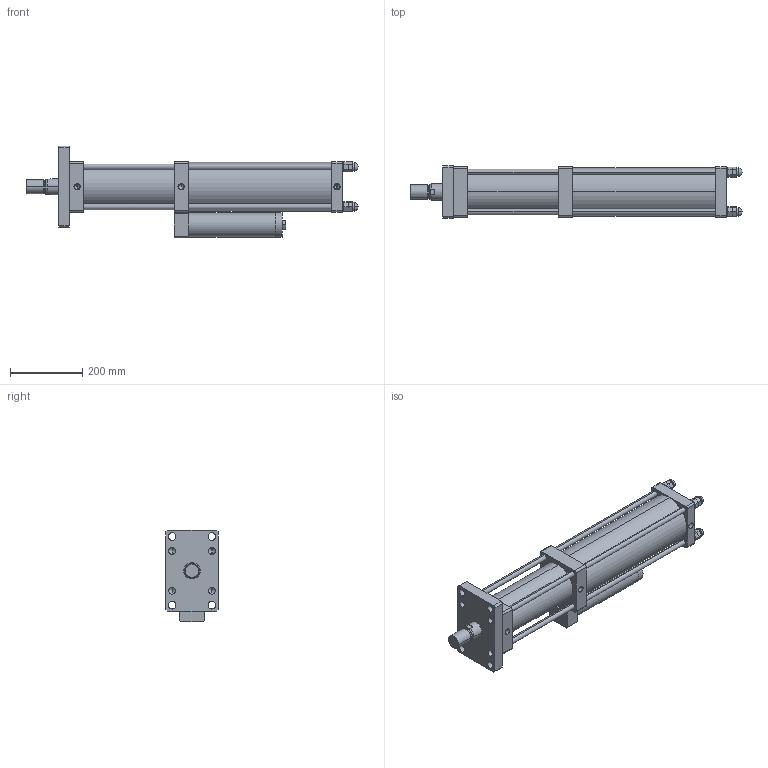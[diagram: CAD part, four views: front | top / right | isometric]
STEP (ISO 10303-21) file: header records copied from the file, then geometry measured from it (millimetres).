
FILE_DESCRIPTION (( 'STEP AP203' ), '1' );
FILE_NAME ('MPTC-100-20-13T.STEP', '2016-03-29T06:57:37', ( 'WIN' ), ( '' ), 'SwSTEP 2.0', 'SolidWorks 2014', '' );
FILE_SCHEMA (( 'CONFIG_CONTROL_DESIGN' ));
Length unit declared in the file: millimetre
Products named in the file (1): MPTC-100-20-13T
Bounding box: 918 x 145 x 253.5 mm (x, y, z)
Volume: 12303854.6 mm3; surface area: 831194.2 mm2
Topology: 13 solids, 13 shells, 399 faces, 980 edges, 555 vertices
Faces by surface type: plane 187, cylinder 80, torus 48, bspline 48, cone 36
Entity records: 12745 total; most frequent: CARTESIAN_POINT 3687, DIRECTION 1934, ORIENTED_EDGE 1812, EDGE_CURVE 906, AXIS2_PLACEMENT_3D 726, VERTEX_POINT 555, VECTOR 482, LINE 482
